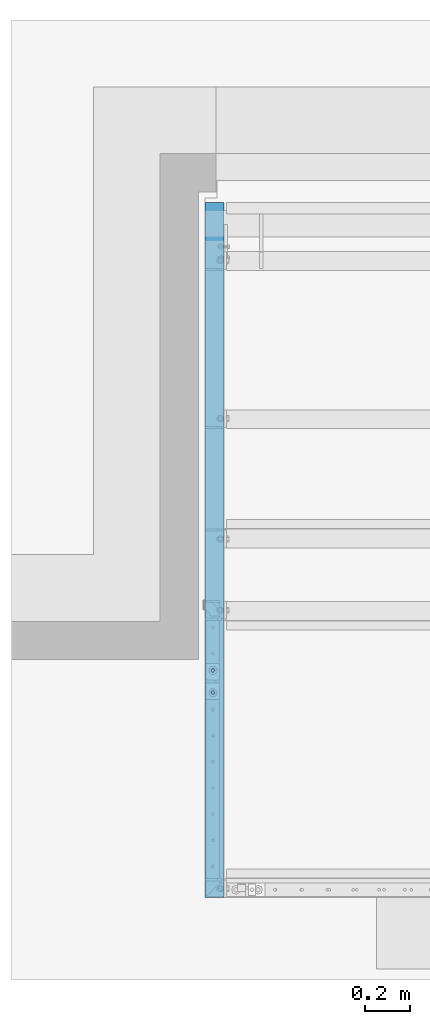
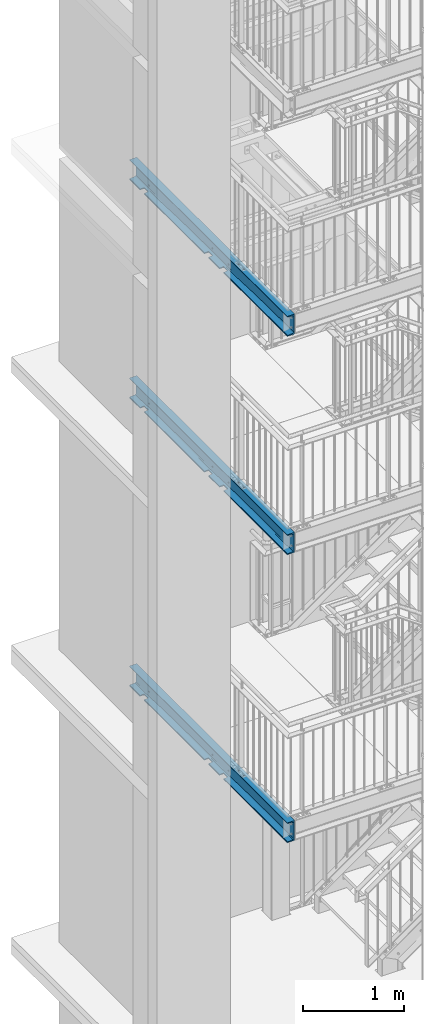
# One storey, part 118 of 831: 3 beams, 39 openings.
"""IFC2X3 building model written with IfcOpenShell, lengths in millimetres."""

from ifc_helpers import new_model, entity, si_unit, converted_unit, point, frame, frame_2d, origin, origin_with_axes, place, context, project, spatial, circle_curve, line_curve, trimmed, segment, composite_curve, circle, u_section, outline, extrude, material, element, save


model = new_model("IFC2X3")

# Units and contexts
model_context = context("Model", 3, precision=1e-09, world=origin_with_axes())
ifc_project = project(units=[si_unit("LENGTHUNIT", "METRE", prefix="MILLI"), si_unit("AREAUNIT", "SQUARE_METRE"), si_unit("VOLUMEUNIT", "CUBIC_METRE"), converted_unit("PLANEANGLEUNIT", "DEGREE", entity("IfcPlaneAngleMeasure", 0.01745329), si_unit("PLANEANGLEUNIT", "RADIAN"), dimensions=[0, 0, 0, 0, 0, 0, 0])], contexts=[model_context])

# Site, building, storey
site_placement = place(None, origin_with_axes())
site = spatial("IfcSite", under=ifc_project, at=site_placement, Name="Site", CompositionType="ELEMENT")
building_placement = place(site_placement, origin_with_axes())
building = spatial("IfcBuilding", under=site, at=building_placement, Name="Struktur 1", CompositionType="ELEMENT")
storey_placement = place(building_placement, origin_with_axes())
storey = spatial("IfcBuildingStorey", under=building, at=storey_placement, Name="Default Storey", CompositionType="ELEMENT", Elevation=0.0)

# Beam, openings
ifc_material = material(Name="S235JR")
beam_1_placement = place(None, frame((3299.413402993, 4491.736971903, 9832.0), z_axis=(0.0, 1.0, 0.0), x_axis=(-1.0, 0.0, 0.0)))
beam_1 = element("IfcBeam", 1, at=beam_1_placement, inside=storey, material=ifc_material, Name="Girder", ObjectType="Girder", context=model_context, shape_type="SweptSolid", body=[
    extrude(u_section(Depth=240.0, FlangeWidth=85.0, WebThickness=9.5, FlangeThickness=13.0, FilletRadius=13.0, EdgeRadius=6.5, FlangeSlope=4.574, at=frame_2d((20.2, 0.0))), origin(), (0.0, 0.0, 1.0), 3120.0),
])
opening_1_placement = place(beam_1_placement, frame((81.62874817, -30.0, 1269.999), z_axis=(0.0, 1.0, 0.0), x_axis=(-0.707106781, 0.0, -0.707106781)))
element("IfcOpeningElement", 2, at=opening_1_placement, cuts=beam_1, ObjectType="Opening", context=model_context, shape_type="SweptSolid", body=[
    extrude(outline(composite_curve([segment(trimmed(circle_curve(frame_2d((7.071067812, 7.071067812), x_axis=(1.0, 0.0)), 10.0), [point((0.0, 0.0))], [point((14.142135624, 0.0))], True, "CARTESIAN"), True, "CONTINUOUS"), segment(trimmed(line_curve((14.142135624, 0.0), (0.707106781, 0.707106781), 48.92974817), [point((14.142135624, 0.0))], [point((48.740692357, 34.598556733))], True, "CARTESIAN"), True, "CONTINUOUS"), segment(trimmed(circle_curve(frame_2d((41.669624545, 41.669624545), x_axis=(1.0, 0.0)), 10.0), [point((48.740692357, 34.598556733))], [point((48.740692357, 48.740692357))], True, "CARTESIAN"), True, "CONTINUOUS"), segment(trimmed(line_curve((48.740692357, 48.740692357), (-0.707106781, 0.707106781), 60.002), [point((48.740692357, 48.740692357))], [point((6.312871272, 91.168513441))], True, "CARTESIAN"), True, "CONTINUOUS"), segment(trimmed(circle_curve(frame_2d((-0.75819654, 84.097445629), x_axis=(1.0, 0.0)), 10.0), [point((6.312871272, 91.168513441))], [point((-7.829264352, 91.168513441))], True, "CARTESIAN"), True, "CONTINUOUS"), segment(trimmed(line_curve((-7.829264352, 91.168513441), (-0.707106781, -0.707106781), 48.92974817), [point((-7.829264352, 91.168513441))], [point((-42.427821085, 56.569956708))], True, "CARTESIAN"), True, "CONTINUOUS"), segment(trimmed(circle_curve(frame_2d((-35.356753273, 49.498888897), x_axis=(1.0, 0.0)), 10.0), [point((-42.427821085, 56.569956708))], [point((-42.427821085, 42.427821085))], True, "CARTESIAN"), True, "CONTINUOUS"), segment(trimmed(line_curve((-42.427821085, 42.427821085), (0.707106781, -0.707106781), 60.002), [point((-42.427821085, 42.427821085))], [point((0.0, 0.0))], True, "CARTESIAN"), True, "CONTINUOUS")], self_intersect=False)), origin(), (0.0, 0.0, -1.0), 190.1),
])
opening_2_placement = place(beam_1_placement, frame((79.429256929, -30.0, 2839.999), z_axis=(0.0, 1.0, 0.0), x_axis=(-0.707106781, 0.0, -0.707106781)))
element("IfcOpeningElement", 3, at=opening_2_placement, cuts=beam_1, ObjectType="Opening", context=model_context, shape_type="SweptSolid", body=[
    extrude(outline(composite_curve([segment(trimmed(circle_curve(frame_2d((7.071067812, 7.071067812), x_axis=(1.0, 0.0)), 10.0), [point((0.0, 0.0))], [point((14.142135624, 0.0))], True, "CARTESIAN"), True, "CONTINUOUS"), segment(trimmed(line_curve((14.142135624, 0.0), (0.707106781, 0.707106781), 46.730256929), [point((14.142135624, 0.0))], [point((47.185417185, 33.043281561))], True, "CARTESIAN"), True, "CONTINUOUS"), segment(trimmed(circle_curve(frame_2d((40.114349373, 40.114349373), x_axis=(1.0, 0.0)), 10.0), [point((47.185417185, 33.043281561))], [point((47.185417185, 47.185417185))], True, "CARTESIAN"), True, "CONTINUOUS"), segment(trimmed(line_curve((47.185417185, 47.185417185), (-0.707106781, 0.707106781), 60.002), [point((47.185417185, 47.185417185))], [point((4.7575961, 89.61323827))], True, "CARTESIAN"), True, "CONTINUOUS"), segment(trimmed(circle_curve(frame_2d((-2.313471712, 82.542170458), x_axis=(1.0, 0.0)), 10.0), [point((4.7575961, 89.61323827))], [point((-9.384539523, 89.61323827))], True, "CARTESIAN"), True, "CONTINUOUS"), segment(trimmed(line_curve((-9.384539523, 89.61323827), (-0.707106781, -0.707106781), 46.730256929), [point((-9.384539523, 89.61323827))], [point((-42.427821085, 56.569956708))], True, "CARTESIAN"), True, "CONTINUOUS"), segment(trimmed(circle_curve(frame_2d((-35.356753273, 49.498888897), x_axis=(1.0, 0.0)), 10.0), [point((-42.427821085, 56.569956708))], [point((-42.427821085, 42.427821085))], True, "CARTESIAN"), True, "CONTINUOUS"), segment(trimmed(line_curve((-42.427821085, 42.427821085), (0.707106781, -0.707106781), 60.002), [point((-42.427821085, 42.427821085))], [point((0.0, 0.0))], True, "CARTESIAN"), True, "CONTINUOUS")], self_intersect=False)), origin(), (0.0, 0.0, -1.0), 190.1),
])
opening_3_placement = place(beam_1_placement, frame((80.021054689, -30.0, 1569.999), z_axis=(0.0, 1.0, 0.0), x_axis=(-0.707106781, 0.0, -0.707106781)))
element("IfcOpeningElement", 4, at=opening_3_placement, cuts=beam_1, ObjectType="Opening", context=model_context, shape_type="SweptSolid", body=[
    extrude(outline(composite_curve([segment(trimmed(circle_curve(frame_2d((7.071067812, 7.071067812), x_axis=(1.0, 0.0)), 10.0), [point((0.0, 0.0))], [point((14.142135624, 0.0))], True, "CARTESIAN"), True, "CONTINUOUS"), segment(trimmed(line_curve((14.142135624, 0.0), (0.707106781, 0.707106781), 47.322054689), [point((14.142135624, 0.0))], [point((47.603881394, 33.46174577))], True, "CARTESIAN"), True, "CONTINUOUS"), segment(trimmed(circle_curve(frame_2d((40.532813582, 40.532813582), x_axis=(1.0, 0.0)), 10.0), [point((47.603881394, 33.46174577))], [point((47.603881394, 47.603881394))], True, "CARTESIAN"), True, "CONTINUOUS"), segment(trimmed(line_curve((47.603881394, 47.603881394), (-0.707106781, 0.707106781), 60.002), [point((47.603881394, 47.603881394))], [point((5.176060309, 90.031702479))], True, "CARTESIAN"), True, "CONTINUOUS"), segment(trimmed(circle_curve(frame_2d((-1.895007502, 82.960634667), x_axis=(1.0, 0.0)), 10.0), [point((5.176060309, 90.031702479))], [point((-8.966075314, 90.031702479))], True, "CARTESIAN"), True, "CONTINUOUS"), segment(trimmed(line_curve((-8.966075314, 90.031702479), (-0.707106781, -0.707106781), 47.322054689), [point((-8.966075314, 90.031702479))], [point((-42.427821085, 56.569956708))], True, "CARTESIAN"), True, "CONTINUOUS"), segment(trimmed(circle_curve(frame_2d((-35.356753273, 49.498888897), x_axis=(1.0, 0.0)), 10.0), [point((-42.427821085, 56.569956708))], [point((-42.427821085, 42.427821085))], True, "CARTESIAN"), True, "CONTINUOUS"), segment(trimmed(line_curve((-42.427821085, 42.427821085), (0.707106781, -0.707106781), 60.002), [point((-42.427821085, 42.427821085))], [point((0.0, 0.0))], True, "CARTESIAN"), True, "CONTINUOUS")], self_intersect=False)), origin(), (0.0, 0.0, -1.0), 190.1),
])
opening_4_placement = place(beam_1_placement, frame((27.7, 120.5, 1013.001), z_axis=(0.0, 1.0, 0.0), x_axis=(-1.0, 0.0, 0.0)))
element("IfcOpeningElement", 5, at=opening_4_placement, cuts=beam_1, ObjectType="Opening", context=model_context, shape_type="SweptSolid", body=[
    extrude(circle(Radius=7.001, at=frame_2d((0.0, 7.001), x_axis=(1.0, 0.0))), origin(), (0.0, 0.0, -1.0), 14.0),
])
opening_5_placement = place(beam_1_placement, frame((27.7, 120.5, 913.001), z_axis=(0.0, 1.0, 0.0), x_axis=(-1.0, 0.0, 0.0)))
element("IfcOpeningElement", 6, at=opening_5_placement, cuts=beam_1, ObjectType="Opening", context=model_context, shape_type="SweptSolid", body=[
    extrude(circle(Radius=7.001, at=frame_2d((0.0, 7.001), x_axis=(1.0, 0.0))), origin(), (0.0, 0.0, -1.0), 14.0),
])
opening_6_placement = place(beam_1_placement, frame((-12.3, 50.999, 1290.0), z_axis=(1.0, 0.0, 0.0), x_axis=(0.0, 1.0, 0.0)))
element("IfcOpeningElement", 7, at=opening_6_placement, cuts=beam_1, ObjectType="Opening", context=model_context, shape_type="SweptSolid", body=[
    extrude(circle(Radius=9.001, at=frame_2d((9.001, 0.0), x_axis=(1.0, 0.0))), origin(), (0.0, 0.0, -1.0), 10.5),
])
opening_7_placement = place(beam_1_placement, frame((-12.3, -69.001, 1290.0), z_axis=(1.0, 0.0, 0.0), x_axis=(0.0, 1.0, 0.0)))
element("IfcOpeningElement", 8, at=opening_7_placement, cuts=beam_1, ObjectType="Opening", context=model_context, shape_type="SweptSolid", body=[
    extrude(circle(Radius=9.001, at=frame_2d((9.001, 0.0), x_axis=(1.0, 0.0))), origin(), (0.0, 0.0, -1.0), 10.5),
])
opening_8_placement = place(beam_1_placement, frame((-12.3, 0.0, 40.0), z_axis=(-1.0, 0.0, 0.0), x_axis=(0.0, 1.0, 0.0)))
element("IfcOpeningElement", 9, at=opening_8_placement, cuts=beam_1, ObjectType="Opening", context=model_context, shape_type="SweptSolid", body=[
    extrude(circle(Radius=9.001, at=frame_2d((60.0, 0.0), x_axis=(1.0, 0.0))), origin(), (0.0, 0.0, 1.0), 10.5),
])
opening_9_placement = place(beam_1_placement, frame((-12.3, 0.0, 40.0), z_axis=(-1.0, 0.0, 0.0), x_axis=(0.0, 1.0, 0.0)))
element("IfcOpeningElement", 10, at=opening_9_placement, cuts=beam_1, ObjectType="Opening", context=model_context, shape_type="SweptSolid", body=[
    extrude(circle(Radius=9.001, at=frame_2d((-60.0, 0.0), x_axis=(1.0, 0.0))), origin(), (0.0, 0.0, 1.0), 10.5),
])
opening_10_placement = place(beam_1_placement, frame((-12.3, 0.0, 1610.0), z_axis=(-1.0, 0.0, 0.0), x_axis=(0.0, 1.0, 0.0)))
element("IfcOpeningElement", 11, at=opening_10_placement, cuts=beam_1, ObjectType="Opening", context=model_context, shape_type="SweptSolid", body=[
    extrude(circle(Radius=9.001, at=frame_2d((60.0, 0.0), x_axis=(1.0, 0.0))), origin(), (0.0, 0.0, 1.0), 10.5),
])
opening_11_placement = place(beam_1_placement, frame((-12.3, 0.0, 1610.0), z_axis=(-1.0, 0.0, 0.0), x_axis=(0.0, 1.0, 0.0)))
element("IfcOpeningElement", 12, at=opening_11_placement, cuts=beam_1, ObjectType="Opening", context=model_context, shape_type="SweptSolid", body=[
    extrude(circle(Radius=9.001, at=frame_2d((-60.0, 0.0), x_axis=(1.0, 0.0))), origin(), (0.0, 0.0, 1.0), 10.5),
])
opening_12_placement = place(beam_1_placement, frame((-12.3, 50.999, 2860.0), z_axis=(1.0, 0.0, 0.0), x_axis=(0.0, 1.0, 0.0)))
element("IfcOpeningElement", 13, at=opening_12_placement, cuts=beam_1, ObjectType="Opening", context=model_context, shape_type="SweptSolid", body=[
    extrude(circle(Radius=9.001, at=frame_2d((9.001, 0.0), x_axis=(1.0, 0.0))), origin(), (0.0, 0.0, -1.0), 10.5),
])
opening_13_placement = place(beam_1_placement, frame((-12.3, -69.001, 2860.0), z_axis=(1.0, 0.0, 0.0), x_axis=(0.0, 1.0, 0.0)))
element("IfcOpeningElement", 14, at=opening_13_placement, cuts=beam_1, ObjectType="Opening", context=model_context, shape_type="SweptSolid", body=[
    extrude(circle(Radius=9.001, at=frame_2d((9.001, 0.0), x_axis=(1.0, 0.0))), origin(), (0.0, 0.0, -1.0), 10.5),
])

beam_2_placement = place(None, frame((3299.413402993, 4491.736971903, 7200.0), z_axis=(0.0, 1.0, 0.0), x_axis=(-1.0, 0.0, 0.0)))
beam_2 = element("IfcBeam", 15, at=beam_2_placement, inside=storey, material=ifc_material, Name="Girder", ObjectType="Girder", context=model_context, shape_type="SweptSolid", body=[
    extrude(u_section(Depth=240.0, FlangeWidth=85.0, WebThickness=9.5, FlangeThickness=13.0, FilletRadius=13.0, EdgeRadius=6.5, FlangeSlope=4.574, at=frame_2d((20.2, 0.0))), origin(), (0.0, 0.0, 1.0), 3120.0),
])
opening_14_placement = place(beam_2_placement, frame((81.62874817, -30.0, 1269.999), z_axis=(0.0, 1.0, 0.0), x_axis=(-0.707106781, 0.0, -0.707106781)))
element("IfcOpeningElement", 16, at=opening_14_placement, cuts=beam_2, ObjectType="Opening", context=model_context, shape_type="SweptSolid", body=[
    extrude(outline(composite_curve([segment(trimmed(circle_curve(frame_2d((7.071067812, 7.071067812), x_axis=(1.0, 0.0)), 10.0), [point((0.0, 0.0))], [point((14.142135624, 0.0))], True, "CARTESIAN"), True, "CONTINUOUS"), segment(trimmed(line_curve((14.142135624, 0.0), (0.707106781, 0.707106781), 48.92974817), [point((14.142135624, 0.0))], [point((48.740692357, 34.598556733))], True, "CARTESIAN"), True, "CONTINUOUS"), segment(trimmed(circle_curve(frame_2d((41.669624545, 41.669624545), x_axis=(1.0, 0.0)), 10.0), [point((48.740692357, 34.598556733))], [point((48.740692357, 48.740692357))], True, "CARTESIAN"), True, "CONTINUOUS"), segment(trimmed(line_curve((48.740692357, 48.740692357), (-0.707106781, 0.707106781), 60.002), [point((48.740692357, 48.740692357))], [point((6.312871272, 91.168513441))], True, "CARTESIAN"), True, "CONTINUOUS"), segment(trimmed(circle_curve(frame_2d((-0.75819654, 84.097445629), x_axis=(1.0, 0.0)), 10.0), [point((6.312871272, 91.168513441))], [point((-7.829264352, 91.168513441))], True, "CARTESIAN"), True, "CONTINUOUS"), segment(trimmed(line_curve((-7.829264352, 91.168513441), (-0.707106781, -0.707106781), 48.92974817), [point((-7.829264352, 91.168513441))], [point((-42.427821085, 56.569956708))], True, "CARTESIAN"), True, "CONTINUOUS"), segment(trimmed(circle_curve(frame_2d((-35.356753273, 49.498888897), x_axis=(1.0, 0.0)), 10.0), [point((-42.427821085, 56.569956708))], [point((-42.427821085, 42.427821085))], True, "CARTESIAN"), True, "CONTINUOUS"), segment(trimmed(line_curve((-42.427821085, 42.427821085), (0.707106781, -0.707106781), 60.002), [point((-42.427821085, 42.427821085))], [point((0.0, 0.0))], True, "CARTESIAN"), True, "CONTINUOUS")], self_intersect=False)), origin(), (0.0, 0.0, -1.0), 190.1),
])
opening_15_placement = place(beam_2_placement, frame((82.514590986, -30.0, 1569.999), z_axis=(0.0, 1.0, 0.0), x_axis=(-0.707106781, 0.0, -0.707106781)))
element("IfcOpeningElement", 17, at=opening_15_placement, cuts=beam_2, ObjectType="Opening", context=model_context, shape_type="SweptSolid", body=[
    extrude(outline(composite_curve([segment(trimmed(circle_curve(frame_2d((7.071067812, 7.071067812), x_axis=(1.0, 0.0)), 10.0), [point((0.0, 0.0))], [point((14.142135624, 0.0))], True, "CARTESIAN"), True, "CONTINUOUS"), segment(trimmed(line_curve((14.142135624, 0.0), (0.707106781, 0.707106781), 49.815590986), [point((14.142135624, 0.0))], [point((49.367077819, 35.224942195))], True, "CARTESIAN"), True, "CONTINUOUS"), segment(trimmed(circle_curve(frame_2d((42.296010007, 42.296010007), x_axis=(1.0, 0.0)), 10.0), [point((49.367077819, 35.224942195))], [point((49.367077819, 49.367077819))], True, "CARTESIAN"), True, "CONTINUOUS"), segment(trimmed(line_curve((49.367077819, 49.367077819), (-0.707106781, 0.707106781), 60.002), [point((49.367077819, 49.367077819))], [point((6.939256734, 91.794898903))], True, "CARTESIAN"), True, "CONTINUOUS"), segment(trimmed(circle_curve(frame_2d((-0.131811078, 84.723831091), x_axis=(1.0, 0.0)), 10.0), [point((6.939256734, 91.794898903))], [point((-7.20287889, 91.794898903))], True, "CARTESIAN"), True, "CONTINUOUS"), segment(trimmed(line_curve((-7.20287889, 91.794898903), (-0.707106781, -0.707106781), 49.815590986), [point((-7.20287889, 91.794898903))], [point((-42.427821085, 56.569956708))], True, "CARTESIAN"), True, "CONTINUOUS"), segment(trimmed(circle_curve(frame_2d((-35.356753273, 49.498888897), x_axis=(1.0, 0.0)), 10.0), [point((-42.427821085, 56.569956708))], [point((-42.427821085, 42.427821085))], True, "CARTESIAN"), True, "CONTINUOUS"), segment(trimmed(line_curve((-42.427821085, 42.427821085), (0.707106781, -0.707106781), 60.002), [point((-42.427821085, 42.427821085))], [point((0.0, 0.0))], True, "CARTESIAN"), True, "CONTINUOUS")], self_intersect=False)), origin(), (0.0, 0.0, -1.0), 190.1),
])
opening_16_placement = place(beam_2_placement, frame((82.514590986, -30.0, 2839.999), z_axis=(0.0, 1.0, 0.0), x_axis=(-0.707106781, 0.0, -0.707106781)))
element("IfcOpeningElement", 18, at=opening_16_placement, cuts=beam_2, ObjectType="Opening", context=model_context, shape_type="SweptSolid", body=[
    extrude(outline(composite_curve([segment(trimmed(circle_curve(frame_2d((7.071067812, 7.071067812), x_axis=(1.0, 0.0)), 10.0), [point((0.0, 0.0))], [point((14.142135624, 0.0))], True, "CARTESIAN"), True, "CONTINUOUS"), segment(trimmed(line_curve((14.142135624, 0.0), (0.707106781, 0.707106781), 49.815590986), [point((14.142135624, 0.0))], [point((49.367077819, 35.224942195))], True, "CARTESIAN"), True, "CONTINUOUS"), segment(trimmed(circle_curve(frame_2d((42.296010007, 42.296010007), x_axis=(1.0, 0.0)), 10.0), [point((49.367077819, 35.224942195))], [point((49.367077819, 49.367077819))], True, "CARTESIAN"), True, "CONTINUOUS"), segment(trimmed(line_curve((49.367077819, 49.367077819), (-0.707106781, 0.707106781), 60.002), [point((49.367077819, 49.367077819))], [point((6.939256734, 91.794898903))], True, "CARTESIAN"), True, "CONTINUOUS"), segment(trimmed(circle_curve(frame_2d((-0.131811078, 84.723831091), x_axis=(1.0, 0.0)), 10.0), [point((6.939256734, 91.794898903))], [point((-7.20287889, 91.794898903))], True, "CARTESIAN"), True, "CONTINUOUS"), segment(trimmed(line_curve((-7.20287889, 91.794898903), (-0.707106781, -0.707106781), 49.815590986), [point((-7.20287889, 91.794898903))], [point((-42.427821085, 56.569956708))], True, "CARTESIAN"), True, "CONTINUOUS"), segment(trimmed(circle_curve(frame_2d((-35.356753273, 49.498888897), x_axis=(1.0, 0.0)), 10.0), [point((-42.427821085, 56.569956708))], [point((-42.427821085, 42.427821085))], True, "CARTESIAN"), True, "CONTINUOUS"), segment(trimmed(line_curve((-42.427821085, 42.427821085), (0.707106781, -0.707106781), 60.002), [point((-42.427821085, 42.427821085))], [point((0.0, 0.0))], True, "CARTESIAN"), True, "CONTINUOUS")], self_intersect=False)), origin(), (0.0, 0.0, -1.0), 190.1),
])
opening_17_placement = place(beam_2_placement, frame((27.7, 120.5, 1013.001), z_axis=(0.0, 1.0, 0.0), x_axis=(-1.0, 0.0, 0.0)))
element("IfcOpeningElement", 19, at=opening_17_placement, cuts=beam_2, ObjectType="Opening", context=model_context, shape_type="SweptSolid", body=[
    extrude(circle(Radius=7.001, at=frame_2d((0.0, 7.001), x_axis=(1.0, 0.0))), origin(), (0.0, 0.0, -1.0), 14.0),
])
opening_18_placement = place(beam_2_placement, frame((27.7, 120.5, 913.001), z_axis=(0.0, 1.0, 0.0), x_axis=(-1.0, 0.0, 0.0)))
element("IfcOpeningElement", 20, at=opening_18_placement, cuts=beam_2, ObjectType="Opening", context=model_context, shape_type="SweptSolid", body=[
    extrude(circle(Radius=7.001, at=frame_2d((0.0, 7.001), x_axis=(1.0, 0.0))), origin(), (0.0, 0.0, -1.0), 14.0),
])
opening_19_placement = place(beam_2_placement, frame((-12.3, 0.0, 40.0), z_axis=(-1.0, 0.0, 0.0), x_axis=(0.0, 1.0, 0.0)))
element("IfcOpeningElement", 21, at=opening_19_placement, cuts=beam_2, ObjectType="Opening", context=model_context, shape_type="SweptSolid", body=[
    extrude(circle(Radius=9.001, at=frame_2d((60.0, 0.0), x_axis=(1.0, 0.0))), origin(), (0.0, 0.0, 1.0), 10.5),
])
opening_20_placement = place(beam_2_placement, frame((-12.3, 0.0, 40.0), z_axis=(-1.0, 0.0, 0.0), x_axis=(0.0, 1.0, 0.0)))
element("IfcOpeningElement", 22, at=opening_20_placement, cuts=beam_2, ObjectType="Opening", context=model_context, shape_type="SweptSolid", body=[
    extrude(circle(Radius=9.001, at=frame_2d((-60.0, 0.0), x_axis=(1.0, 0.0))), origin(), (0.0, 0.0, 1.0), 10.5),
])
opening_21_placement = place(beam_2_placement, frame((-12.3, 50.999, 2860.0), z_axis=(1.0, 0.0, 0.0), x_axis=(0.0, 1.0, 0.0)))
element("IfcOpeningElement", 23, at=opening_21_placement, cuts=beam_2, ObjectType="Opening", context=model_context, shape_type="SweptSolid", body=[
    extrude(circle(Radius=9.001, at=frame_2d((9.001, 0.0), x_axis=(1.0, 0.0))), origin(), (0.0, 0.0, -1.0), 10.5),
])
opening_22_placement = place(beam_2_placement, frame((-12.3, -69.001, 2860.0), z_axis=(1.0, 0.0, 0.0), x_axis=(0.0, 1.0, 0.0)))
element("IfcOpeningElement", 24, at=opening_22_placement, cuts=beam_2, ObjectType="Opening", context=model_context, shape_type="SweptSolid", body=[
    extrude(circle(Radius=9.001, at=frame_2d((9.001, 0.0), x_axis=(1.0, 0.0))), origin(), (0.0, 0.0, -1.0), 10.5),
])
opening_23_placement = place(beam_2_placement, frame((-12.3, 50.999, 1290.0), z_axis=(1.0, 0.0, 0.0), x_axis=(0.0, 1.0, 0.0)))
element("IfcOpeningElement", 25, at=opening_23_placement, cuts=beam_2, ObjectType="Opening", context=model_context, shape_type="SweptSolid", body=[
    extrude(circle(Radius=9.001, at=frame_2d((9.001, 0.0), x_axis=(1.0, 0.0))), origin(), (0.0, 0.0, -1.0), 10.5),
])
opening_24_placement = place(beam_2_placement, frame((-12.3, -69.001, 1290.0), z_axis=(1.0, 0.0, 0.0), x_axis=(0.0, 1.0, 0.0)))
element("IfcOpeningElement", 26, at=opening_24_placement, cuts=beam_2, ObjectType="Opening", context=model_context, shape_type="SweptSolid", body=[
    extrude(circle(Radius=9.001, at=frame_2d((9.001, 0.0), x_axis=(1.0, 0.0))), origin(), (0.0, 0.0, -1.0), 10.5),
])
opening_25_placement = place(beam_2_placement, frame((-12.3, 0.0, 1610.0), z_axis=(-1.0, 0.0, 0.0), x_axis=(0.0, 1.0, 0.0)))
element("IfcOpeningElement", 27, at=opening_25_placement, cuts=beam_2, ObjectType="Opening", context=model_context, shape_type="SweptSolid", body=[
    extrude(circle(Radius=9.001, at=frame_2d((60.0, 0.0), x_axis=(1.0, 0.0))), origin(), (0.0, 0.0, 1.0), 10.5),
])
opening_26_placement = place(beam_2_placement, frame((-12.3, 0.0, 1610.0), z_axis=(-1.0, 0.0, 0.0), x_axis=(0.0, 1.0, 0.0)))
element("IfcOpeningElement", 28, at=opening_26_placement, cuts=beam_2, ObjectType="Opening", context=model_context, shape_type="SweptSolid", body=[
    extrude(circle(Radius=9.001, at=frame_2d((-60.0, 0.0), x_axis=(1.0, 0.0))), origin(), (0.0, 0.0, 1.0), 10.5),
])

beam_3_placement = place(None, frame((3299.413402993, 4491.736971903, 3727.0), z_axis=(0.0, 1.0, 0.0), x_axis=(-1.0, 0.0, 0.0)))
beam_3 = element("IfcBeam", 29, at=beam_3_placement, inside=storey, material=ifc_material, Name="Girder", ObjectType="Girder", context=model_context, shape_type="SweptSolid", body=[
    extrude(u_section(Depth=240.0, FlangeWidth=85.0, WebThickness=9.5, FlangeThickness=13.0, FilletRadius=13.0, EdgeRadius=6.5, FlangeSlope=4.574, at=frame_2d((20.2, 0.0))), origin(), (0.0, 0.0, 1.0), 3120.0),
])
opening_27_placement = place(beam_3_placement, frame((81.62874817, -30.0, 1269.999), z_axis=(0.0, 1.0, 0.0), x_axis=(-0.707106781, 0.0, -0.707106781)))
element("IfcOpeningElement", 30, at=opening_27_placement, cuts=beam_3, ObjectType="Opening", context=model_context, shape_type="SweptSolid", body=[
    extrude(outline(composite_curve([segment(trimmed(circle_curve(frame_2d((7.071067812, 7.071067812), x_axis=(1.0, 0.0)), 10.0), [point((0.0, 0.0))], [point((14.142135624, 0.0))], True, "CARTESIAN"), True, "CONTINUOUS"), segment(trimmed(line_curve((14.142135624, 0.0), (0.707106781, 0.707106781), 48.92974817), [point((14.142135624, 0.0))], [point((48.740692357, 34.598556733))], True, "CARTESIAN"), True, "CONTINUOUS"), segment(trimmed(circle_curve(frame_2d((41.669624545, 41.669624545), x_axis=(1.0, 0.0)), 10.0), [point((48.740692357, 34.598556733))], [point((48.740692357, 48.740692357))], True, "CARTESIAN"), True, "CONTINUOUS"), segment(trimmed(line_curve((48.740692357, 48.740692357), (-0.707106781, 0.707106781), 60.002), [point((48.740692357, 48.740692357))], [point((6.312871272, 91.168513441))], True, "CARTESIAN"), True, "CONTINUOUS"), segment(trimmed(circle_curve(frame_2d((-0.75819654, 84.097445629), x_axis=(1.0, 0.0)), 10.0), [point((6.312871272, 91.168513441))], [point((-7.829264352, 91.168513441))], True, "CARTESIAN"), True, "CONTINUOUS"), segment(trimmed(line_curve((-7.829264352, 91.168513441), (-0.707106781, -0.707106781), 48.92974817), [point((-7.829264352, 91.168513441))], [point((-42.427821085, 56.569956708))], True, "CARTESIAN"), True, "CONTINUOUS"), segment(trimmed(circle_curve(frame_2d((-35.356753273, 49.498888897), x_axis=(1.0, 0.0)), 10.0), [point((-42.427821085, 56.569956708))], [point((-42.427821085, 42.427821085))], True, "CARTESIAN"), True, "CONTINUOUS"), segment(trimmed(line_curve((-42.427821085, 42.427821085), (0.707106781, -0.707106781), 60.002), [point((-42.427821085, 42.427821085))], [point((0.0, 0.0))], True, "CARTESIAN"), True, "CONTINUOUS")], self_intersect=False)), origin(), (0.0, 0.0, -1.0), 190.1),
])
opening_28_placement = place(beam_3_placement, frame((82.514590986, -30.0, 1569.999), z_axis=(0.0, 1.0, 0.0), x_axis=(-0.707106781, 0.0, -0.707106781)))
element("IfcOpeningElement", 31, at=opening_28_placement, cuts=beam_3, ObjectType="Opening", context=model_context, shape_type="SweptSolid", body=[
    extrude(outline(composite_curve([segment(trimmed(circle_curve(frame_2d((7.071067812, 7.071067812), x_axis=(1.0, 0.0)), 10.0), [point((0.0, 0.0))], [point((14.142135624, 0.0))], True, "CARTESIAN"), True, "CONTINUOUS"), segment(trimmed(line_curve((14.142135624, 0.0), (0.707106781, 0.707106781), 49.815590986), [point((14.142135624, 0.0))], [point((49.367077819, 35.224942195))], True, "CARTESIAN"), True, "CONTINUOUS"), segment(trimmed(circle_curve(frame_2d((42.296010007, 42.296010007), x_axis=(1.0, 0.0)), 10.0), [point((49.367077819, 35.224942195))], [point((49.367077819, 49.367077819))], True, "CARTESIAN"), True, "CONTINUOUS"), segment(trimmed(line_curve((49.367077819, 49.367077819), (-0.707106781, 0.707106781), 60.002), [point((49.367077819, 49.367077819))], [point((6.939256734, 91.794898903))], True, "CARTESIAN"), True, "CONTINUOUS"), segment(trimmed(circle_curve(frame_2d((-0.131811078, 84.723831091), x_axis=(1.0, 0.0)), 10.0), [point((6.939256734, 91.794898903))], [point((-7.20287889, 91.794898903))], True, "CARTESIAN"), True, "CONTINUOUS"), segment(trimmed(line_curve((-7.20287889, 91.794898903), (-0.707106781, -0.707106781), 49.815590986), [point((-7.20287889, 91.794898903))], [point((-42.427821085, 56.569956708))], True, "CARTESIAN"), True, "CONTINUOUS"), segment(trimmed(circle_curve(frame_2d((-35.356753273, 49.498888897), x_axis=(1.0, 0.0)), 10.0), [point((-42.427821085, 56.569956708))], [point((-42.427821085, 42.427821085))], True, "CARTESIAN"), True, "CONTINUOUS"), segment(trimmed(line_curve((-42.427821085, 42.427821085), (0.707106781, -0.707106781), 60.002), [point((-42.427821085, 42.427821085))], [point((0.0, 0.0))], True, "CARTESIAN"), True, "CONTINUOUS")], self_intersect=False)), origin(), (0.0, 0.0, -1.0), 190.1),
])
opening_29_placement = place(beam_3_placement, frame((82.514590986, -30.0, 2839.999), z_axis=(0.0, 1.0, 0.0), x_axis=(-0.707106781, 0.0, -0.707106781)))
element("IfcOpeningElement", 32, at=opening_29_placement, cuts=beam_3, ObjectType="Opening", context=model_context, shape_type="SweptSolid", body=[
    extrude(outline(composite_curve([segment(trimmed(circle_curve(frame_2d((7.071067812, 7.071067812), x_axis=(1.0, 0.0)), 10.0), [point((0.0, 0.0))], [point((14.142135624, 0.0))], True, "CARTESIAN"), True, "CONTINUOUS"), segment(trimmed(line_curve((14.142135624, 0.0), (0.707106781, 0.707106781), 49.815590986), [point((14.142135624, 0.0))], [point((49.367077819, 35.224942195))], True, "CARTESIAN"), True, "CONTINUOUS"), segment(trimmed(circle_curve(frame_2d((42.296010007, 42.296010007), x_axis=(1.0, 0.0)), 10.0), [point((49.367077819, 35.224942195))], [point((49.367077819, 49.367077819))], True, "CARTESIAN"), True, "CONTINUOUS"), segment(trimmed(line_curve((49.367077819, 49.367077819), (-0.707106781, 0.707106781), 60.002), [point((49.367077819, 49.367077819))], [point((6.939256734, 91.794898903))], True, "CARTESIAN"), True, "CONTINUOUS"), segment(trimmed(circle_curve(frame_2d((-0.131811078, 84.723831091), x_axis=(1.0, 0.0)), 10.0), [point((6.939256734, 91.794898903))], [point((-7.20287889, 91.794898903))], True, "CARTESIAN"), True, "CONTINUOUS"), segment(trimmed(line_curve((-7.20287889, 91.794898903), (-0.707106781, -0.707106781), 49.815590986), [point((-7.20287889, 91.794898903))], [point((-42.427821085, 56.569956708))], True, "CARTESIAN"), True, "CONTINUOUS"), segment(trimmed(circle_curve(frame_2d((-35.356753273, 49.498888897), x_axis=(1.0, 0.0)), 10.0), [point((-42.427821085, 56.569956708))], [point((-42.427821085, 42.427821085))], True, "CARTESIAN"), True, "CONTINUOUS"), segment(trimmed(line_curve((-42.427821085, 42.427821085), (0.707106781, -0.707106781), 60.002), [point((-42.427821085, 42.427821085))], [point((0.0, 0.0))], True, "CARTESIAN"), True, "CONTINUOUS")], self_intersect=False)), origin(), (0.0, 0.0, -1.0), 190.1),
])
opening_30_placement = place(beam_3_placement, frame((27.7, 120.5, 1013.001), z_axis=(0.0, 1.0, 0.0), x_axis=(-1.0, 0.0, 0.0)))
element("IfcOpeningElement", 33, at=opening_30_placement, cuts=beam_3, ObjectType="Opening", context=model_context, shape_type="SweptSolid", body=[
    extrude(circle(Radius=7.001, at=frame_2d((0.0, 7.001), x_axis=(1.0, 0.0))), origin(), (0.0, 0.0, -1.0), 14.0),
])
opening_31_placement = place(beam_3_placement, frame((27.7, 120.5, 913.001), z_axis=(0.0, 1.0, 0.0), x_axis=(-1.0, 0.0, 0.0)))
element("IfcOpeningElement", 34, at=opening_31_placement, cuts=beam_3, ObjectType="Opening", context=model_context, shape_type="SweptSolid", body=[
    extrude(circle(Radius=7.001, at=frame_2d((0.0, 7.001), x_axis=(1.0, 0.0))), origin(), (0.0, 0.0, -1.0), 14.0),
])
opening_32_placement = place(beam_3_placement, frame((-12.3, 0.0, 40.0), z_axis=(-1.0, 0.0, 0.0), x_axis=(0.0, 1.0, 0.0)))
element("IfcOpeningElement", 35, at=opening_32_placement, cuts=beam_3, ObjectType="Opening", context=model_context, shape_type="SweptSolid", body=[
    extrude(circle(Radius=9.001, at=frame_2d((60.0, 0.0), x_axis=(1.0, 0.0))), origin(), (0.0, 0.0, 1.0), 10.5),
])
opening_33_placement = place(beam_3_placement, frame((-12.3, 0.0, 40.0), z_axis=(-1.0, 0.0, 0.0), x_axis=(0.0, 1.0, 0.0)))
element("IfcOpeningElement", 36, at=opening_33_placement, cuts=beam_3, ObjectType="Opening", context=model_context, shape_type="SweptSolid", body=[
    extrude(circle(Radius=9.001, at=frame_2d((-60.0, 0.0), x_axis=(1.0, 0.0))), origin(), (0.0, 0.0, 1.0), 10.5),
])
opening_34_placement = place(beam_3_placement, frame((-12.3, 0.0, 1610.0), z_axis=(-1.0, 0.0, 0.0), x_axis=(0.0, 1.0, 0.0)))
element("IfcOpeningElement", 37, at=opening_34_placement, cuts=beam_3, ObjectType="Opening", context=model_context, shape_type="SweptSolid", body=[
    extrude(circle(Radius=9.001, at=frame_2d((60.0, 0.0), x_axis=(1.0, 0.0))), origin(), (0.0, 0.0, 1.0), 10.5),
])
opening_35_placement = place(beam_3_placement, frame((-12.3, 0.0, 1610.0), z_axis=(-1.0, 0.0, 0.0), x_axis=(0.0, 1.0, 0.0)))
element("IfcOpeningElement", 38, at=opening_35_placement, cuts=beam_3, ObjectType="Opening", context=model_context, shape_type="SweptSolid", body=[
    extrude(circle(Radius=9.001, at=frame_2d((-60.0, 0.0), x_axis=(1.0, 0.0))), origin(), (0.0, 0.0, 1.0), 10.5),
])
opening_36_placement = place(beam_3_placement, frame((-12.3, 50.999, 2860.0), z_axis=(1.0, 0.0, 0.0), x_axis=(0.0, 1.0, 0.0)))
element("IfcOpeningElement", 39, at=opening_36_placement, cuts=beam_3, ObjectType="Opening", context=model_context, shape_type="SweptSolid", body=[
    extrude(circle(Radius=9.001, at=frame_2d((9.001, 0.0), x_axis=(1.0, 0.0))), origin(), (0.0, 0.0, -1.0), 10.5),
])
opening_37_placement = place(beam_3_placement, frame((-12.3, -69.001, 2860.0), z_axis=(1.0, 0.0, 0.0), x_axis=(0.0, 1.0, 0.0)))
element("IfcOpeningElement", 40, at=opening_37_placement, cuts=beam_3, ObjectType="Opening", context=model_context, shape_type="SweptSolid", body=[
    extrude(circle(Radius=9.001, at=frame_2d((9.001, 0.0), x_axis=(1.0, 0.0))), origin(), (0.0, 0.0, -1.0), 10.5),
])
opening_38_placement = place(beam_3_placement, frame((-12.3, 50.999, 1290.0), z_axis=(1.0, 0.0, 0.0), x_axis=(0.0, 1.0, 0.0)))
element("IfcOpeningElement", 41, at=opening_38_placement, cuts=beam_3, ObjectType="Opening", context=model_context, shape_type="SweptSolid", body=[
    extrude(circle(Radius=9.001, at=frame_2d((9.001, 0.0), x_axis=(1.0, 0.0))), origin(), (0.0, 0.0, -1.0), 10.5),
])
opening_39_placement = place(beam_3_placement, frame((-12.3, -69.001, 1290.0), z_axis=(1.0, 0.0, 0.0), x_axis=(0.0, 1.0, 0.0)))
element("IfcOpeningElement", 42, at=opening_39_placement, cuts=beam_3, ObjectType="Opening", context=model_context, shape_type="SweptSolid", body=[
    extrude(circle(Radius=9.001, at=frame_2d((9.001, 0.0), x_axis=(1.0, 0.0))), origin(), (0.0, 0.0, -1.0), 10.5),
])

save(model, "model.ifc")
